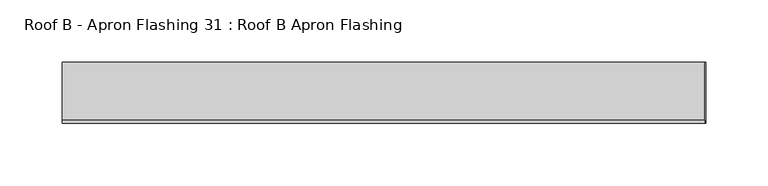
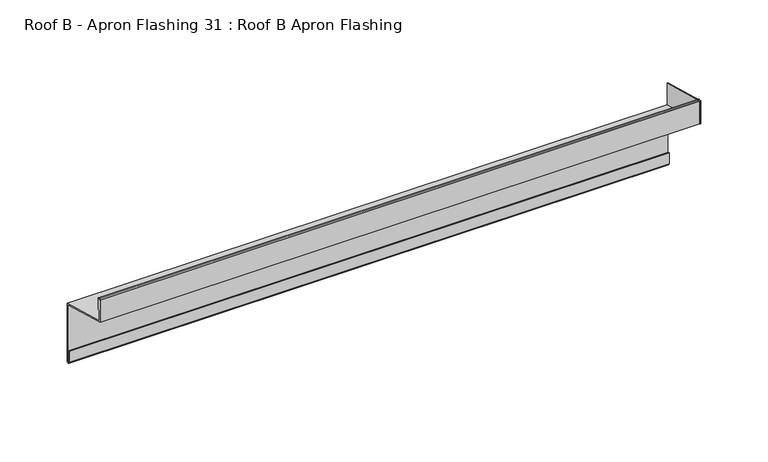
"""IFC4 building model written with IfcOpenShell, lengths in millimetres: proxy geometry, Roof B - Apron Flashing 31 : Roof B Apron Flashing."""

from ifc_helpers import new_model, si_unit, point, frame, frame_2d, origin, place, context, project, spatial, polyline, circle_curve, trimmed, segment, composite_curve, outline, extrude, source, transform, mapped, element, save


def roof_b_apron_flashing_31_roof_b_apron_flashing_949d8b79(model_context):
    return source(origin(), model_context, "Body", "SweptSolid", [
        extrude(outline(polyline([(-20660.2991572, -873.6339834), (-20660.2991572, -853.130654), (-20611.5455269, -866.1941499), (-20611.5455269, -886.6974792), (-20660.2991572, -873.6339834)])), frame((11994.5223206, 0.0, 0.0), z_axis=(1.0, 0.0, 0.0), x_axis=(0.0, 1.0, 0.0)), (0.0, 0.0, 1.0), 0.8428395),
        extrude(outline(composite_curve([segment(polyline([(-20611.5455269, -885.662203), (-20611.5455269, -937.6563748)]), True, "CONTINUOUS"), segment(trimmed(circle_curve(frame_2d((-20613.0455269, -937.6563748)), 1.5), [point((-20611.5455269, -937.6563748))], [point((-20614.5455269, -937.6563748))], False, "CARTESIAN"), True, "CONTINUOUS"), segment(polyline([(-20614.5455269, -937.6563748), (-20614.5455269, -927.6933761), (-20613.5455269, -927.6933761), (-20613.5455269, -937.6563748)]), True, "CONTINUOUS"), segment(trimmed(circle_curve(frame_2d((-20613.0455269, -937.6563748)), 0.5), [point((-20613.5455269, -937.6563748))], [point((-20612.5455269, -937.6563748))], True, "CARTESIAN"), True, "CONTINUOUS"), segment(polyline([(-20612.5455269, -937.6563748), (-20612.5455269, -886.42953), (-20660.2991572, -873.6339834), (-20660.2991572, -853.3538686)]), True, "CONTINUOUS"), segment(trimmed(circle_curve(frame_2d((-20659.0491572, -853.3538686)), 1.25), [point((-20660.2991572, -853.3538686))], [point((-20657.7991572, -853.3538686))], False, "CARTESIAN"), True, "CONTINUOUS"), segment(polyline([(-20657.7991572, -853.3538686), (-20657.7991572, -862.6360034)]), True, "CONTINUOUS"), segment(trimmed(circle_curve(frame_2d((-20658.2991572, -862.6360034)), 0.5), [point((-20657.7991572, -862.6360034))], [point((-20658.7991572, -862.6360034))], False, "CARTESIAN"), True, "CONTINUOUS"), segment(polyline([(-20658.7991572, -862.6360034), (-20658.7991572, -853.3538686)]), True, "CONTINUOUS"), segment(trimmed(circle_curve(frame_2d((-20659.0491572, -853.3538686)), 0.25), [point((-20658.7991572, -853.3538686))], [point((-20659.2991572, -853.3538686))], True, "CARTESIAN"), True, "CONTINUOUS"), segment(polyline([(-20659.2991572, -853.3538686), (-20659.2991572, -872.8666564), (-20611.5455269, -885.662203)]), True, "CONTINUOUS")], self_intersect=False)), frame((11479.5223206, 0.0, 0.0), z_axis=(1.0, 0.0, 0.0), x_axis=(0.0, 1.0, 0.0)), (0.0, 0.0, 1.0), 515.0),
    ])


if __name__ == "__main__":
    model = new_model("IFC4")
    model_context = context("Model", 3, world=origin())
    ifc_project = project(units=[si_unit("LENGTHUNIT", "METRE", prefix="MILLI")], contexts=[model_context])
    site = spatial("IfcSite", under=ifc_project)
    building = spatial("IfcBuilding", under=site)
    placement = place(None, origin())
    roof_b_apron_flashing_31_roof_b_apron_flashing_shape = roof_b_apron_flashing_31_roof_b_apron_flashing_949d8b79(model_context)
    element("IfcBuildingElementProxy", 1, Name="Roof B - Apron Flashing 31 : Roof B Apron Flashing", ObjectType="Roof B - Apron Flashing 31 : Roof B Apron Flashing", at=placement, inside=building, context=model_context, shape_type="MappedRepresentation", body=[
        mapped(roof_b_apron_flashing_31_roof_b_apron_flashing_shape, transform((0.0, 0.0, 0.0), x_axis=(1.0, 0.0, 0.0), y_axis=(0.0, 1.0, 0.0), z_axis=(0.0, 0.0, 1.0))),
    ])
    save(model, "model.ifc")
